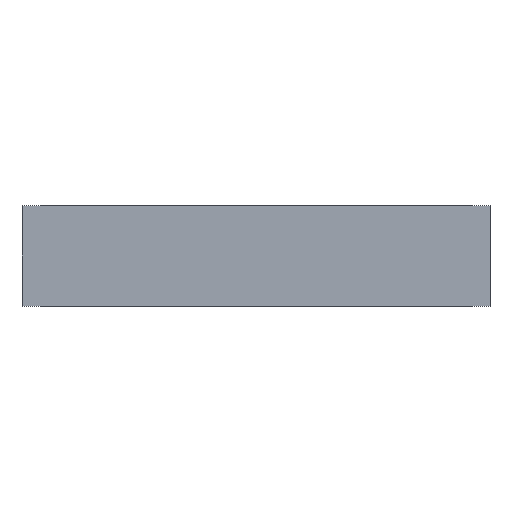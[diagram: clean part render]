
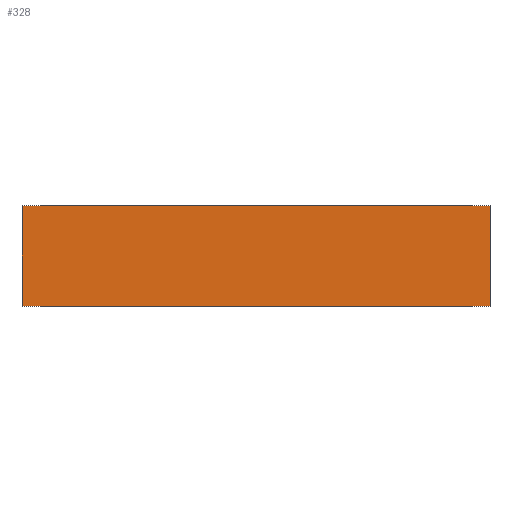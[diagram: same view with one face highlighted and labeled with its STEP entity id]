
A CAD part, front view. The second image highlights one B-rep face of the part: STEP entity #328.
In plain terms, the highlighted planar face has unit normal (0, -1, 0).
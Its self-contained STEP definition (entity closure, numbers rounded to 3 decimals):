
#17 = EDGE_CURVE ( 'NONE', #559, #538, #211, .T. ) ;
#34 = AXIS2_PLACEMENT_3D ( 'NONE', #441, #434, #432 ) ;
#60 = EDGE_CURVE ( 'NONE', #541, #559, #148, .T. ) ;
#64 = EDGE_CURVE ( 'NONE', #575, #538, #142, .T. ) ;
#68 = EDGE_CURVE ( 'NONE', #541, #575, #138, .T. ) ;
#119 = FACE_OUTER_BOUND ( 'NONE', #240, .T. ) ;
#137 = VECTOR ( 'NONE', #481, 1000. ) ;
#138 = LINE ( 'NONE', #482, #137 ) ;
#141 = VECTOR ( 'NONE', #488, 1000. ) ;
#142 = LINE ( 'NONE', #489, #141 ) ;
#147 = VECTOR ( 'NONE', #498, 1000. ) ;
#148 = LINE ( 'NONE', #499, #147 ) ;
#202 = VECTOR ( 'NONE', #577, 1000. ) ;
#211 = LINE ( 'NONE', #396, #202 ) ;
#240 = EDGE_LOOP ( 'NONE', ( #307, #308, #309, #310 ) ) ;
#307 = ORIENTED_EDGE ( 'NONE', *, *, #64, .T. ) ;
#308 = ORIENTED_EDGE ( 'NONE', *, *, #17, .F. ) ;
#309 = ORIENTED_EDGE ( 'NONE', *, *, #60, .F. ) ;
#310 = ORIENTED_EDGE ( 'NONE', *, *, #68, .T. ) ;
#328 = ADVANCED_FACE ( 'NONE', ( #119 ), #445, .F. ) ;
#366 = CARTESIAN_POINT ( 'NONE',  ( -151., 0., 0. ) ) ;
#371 = CARTESIAN_POINT ( 'NONE',  ( 151., 0., 65. ) ) ;
#377 = CARTESIAN_POINT ( 'NONE',  ( -151., 0., 65. ) ) ;
#378 = CARTESIAN_POINT ( 'NONE',  ( 151., 0., 0. ) ) ;
#396 = CARTESIAN_POINT ( 'NONE',  ( 151., 0., 65. ) ) ;
#432 = DIRECTION ( 'NONE',  ( -1., 0., 0. ) ) ;
#434 = DIRECTION ( 'NONE',  ( 0., 1., 0. ) ) ;
#441 = CARTESIAN_POINT ( 'NONE',  ( -151., 0., 65. ) ) ;
#445 = PLANE ( 'NONE',  #34 ) ;
#481 = DIRECTION ( 'NONE',  ( 0., 0., -1. ) ) ;
#482 = CARTESIAN_POINT ( 'NONE',  ( -151., 0., 65. ) ) ;
#488 = DIRECTION ( 'NONE',  ( 1., 0., 0. ) ) ;
#489 = CARTESIAN_POINT ( 'NONE',  ( -151., 0., 0. ) ) ;
#498 = DIRECTION ( 'NONE',  ( 1., 0., 0. ) ) ;
#499 = CARTESIAN_POINT ( 'NONE',  ( -151., 0., 65. ) ) ;
#538 = VERTEX_POINT ( 'NONE', #378 ) ;
#541 = VERTEX_POINT ( 'NONE', #377 ) ;
#559 = VERTEX_POINT ( 'NONE', #371 ) ;
#575 = VERTEX_POINT ( 'NONE', #366 ) ;
#577 = DIRECTION ( 'NONE',  ( 0., 0., -1. ) ) ;
